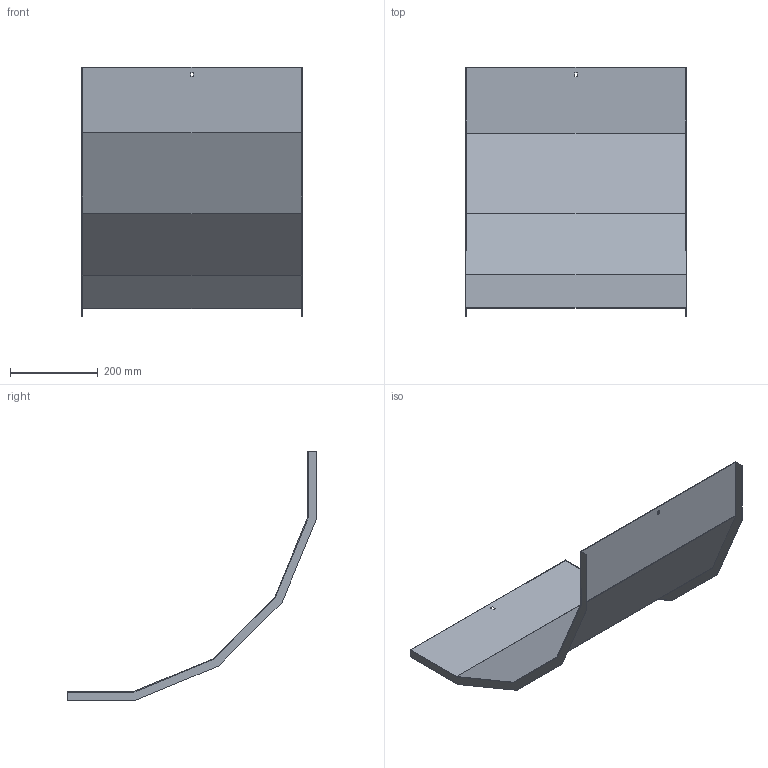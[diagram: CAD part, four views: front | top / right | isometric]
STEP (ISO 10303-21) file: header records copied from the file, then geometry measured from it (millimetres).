
FILE_DESCRIPTION (( 'STEP AP214' ), '1' );
FILE_NAME ('A2X30N5R500X.step', '2025-03-20T09:46:20', ( '' ), ( '' ), 'SwSTEP 2.0', 'SolidWorks 2023', '' );
FILE_SCHEMA (( 'AUTOMOTIVE_DESIGN' ));
Length unit declared in the file: millimetre
Products named in the file (1): A2X30N5R500X
Bounding box: 503 x 569.92 x 569.92 mm (x, y, z)
Volume: 727191.4 mm3; surface area: 974080.5 mm2
Topology: 1 solids, 1 shells, 34 faces, 96 edges, 64 vertices
Faces by surface type: plane 34
Entity records: 1111 total; most frequent: CARTESIAN_POINT 195, ORIENTED_EDGE 192, DIRECTION 166, LINE 96, VECTOR 96, EDGE_CURVE 96, VERTEX_POINT 64, EDGE_LOOP 38
